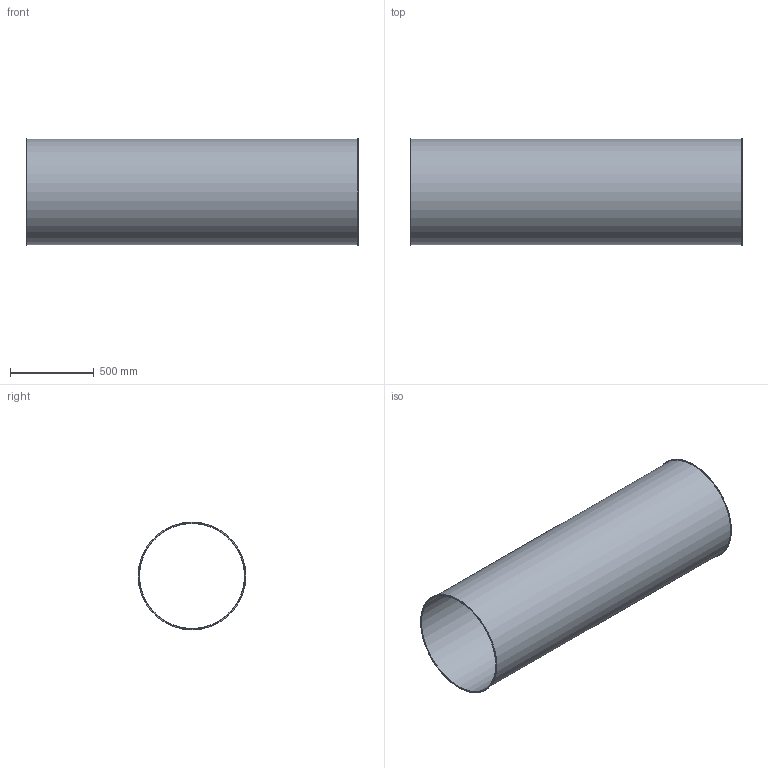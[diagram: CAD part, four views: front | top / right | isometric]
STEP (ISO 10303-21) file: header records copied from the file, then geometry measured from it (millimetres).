
FILE_DESCRIPTION((''),'2;1');
FILE_NAME('U:\Wolfgang\Marcel-3D\fertig\Kapitel 1\6321001.stp','2010-05-31T12:40:26',('TK2'),(''),'Autodesk Inventor 2010','Autodesk Inventor 2010','');
FILE_SCHEMA(('AUTOMOTIVE_DESIGN { 1 0 10303 214 1 1 1 1 }'));
Length unit declared in the file: millimetre
Products named in the file (1): 6321001
Bounding box: 1986 x 644 x 644 mm (x, y, z)
Volume: 7909499.9 mm3; surface area: 7917567.5 mm2
Topology: 1 solids, 1 shells, 8 faces, 12 edges, 8 vertices
Faces by surface type: cylinder 4, plane 4
Full cylindrical faces by diameter (mm): 628 x1, 632 x1, 644 x2
Entity records: 194 total; most frequent: DIRECTION 34, CARTESIAN_POINT 25, AXIS2_PLACEMENT_3D 17, ORIENTED_EDGE 16, EDGE_LOOP 16, VERTEX_POINT 8, CIRCLE 8, EDGE_CURVE 8
